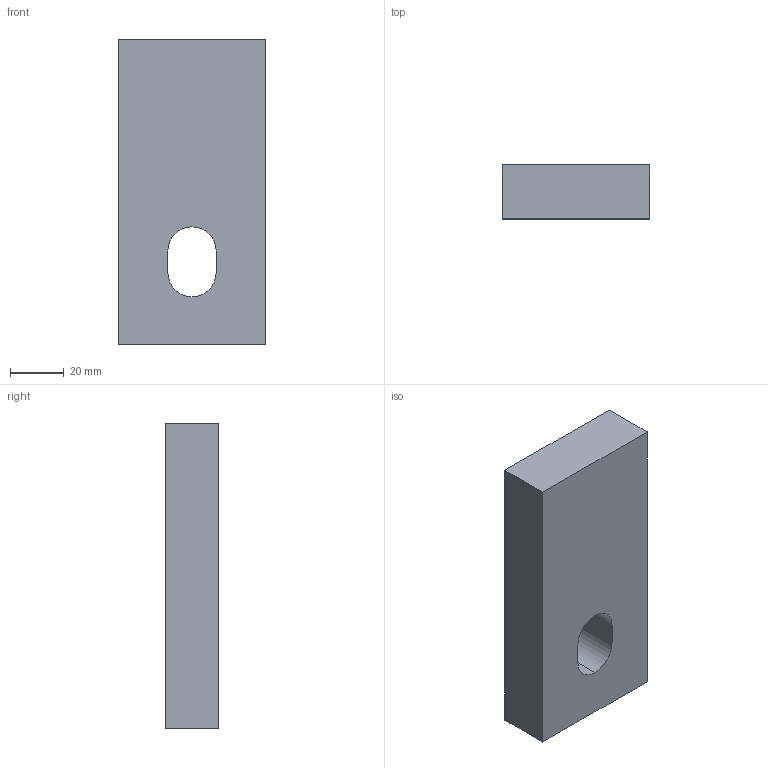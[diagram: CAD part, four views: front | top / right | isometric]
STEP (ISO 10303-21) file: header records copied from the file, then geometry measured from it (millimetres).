
FILE_DESCRIPTION (( 'STEP AP203' ), '1' );
FILE_NAME ('111352.STEP', '2020-01-20T08:59:00', ( '' ), ( '' ), 'SwSTEP 2.0', 'SolidWorks 2013', '' );
FILE_SCHEMA (( 'CONFIG_CONTROL_DESIGN' ));
Length unit declared in the file: millimetre
Products named in the file (1): 111352
Bounding box: 55 x 20 x 114 mm (x, y, z)
Volume: 117430.6 mm3; surface area: 19954 mm2
Topology: 1 solids, 1 shells, 11 faces, 27 edges, 18 vertices
Faces by surface type: plane 8, cylinder 3
Entity records: 408 total; most frequent: DIRECTION 57, CARTESIAN_POINT 57, ORIENTED_EDGE 54, EDGE_CURVE 27, LINE 21, VECTOR 21, VERTEX_POINT 18, AXIS2_PLACEMENT_3D 18
